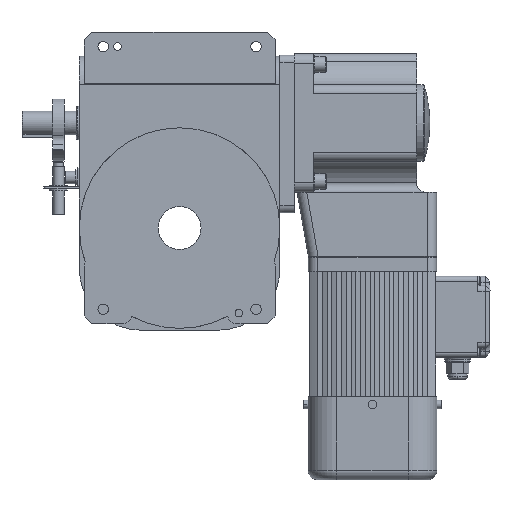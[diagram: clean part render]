
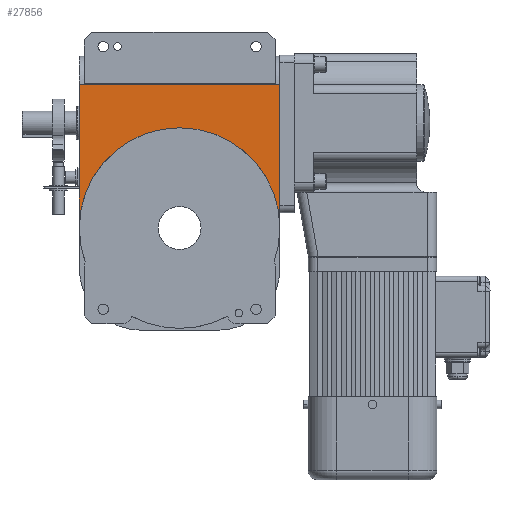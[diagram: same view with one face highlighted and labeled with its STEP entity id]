
A CAD part, front view. The second image highlights one B-rep face of the part: STEP entity #27856.
In plain terms, the highlighted planar face has unit normal (0, -1, 0).
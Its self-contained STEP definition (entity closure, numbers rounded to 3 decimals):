
#2117 = EDGE_CURVE ( 'NONE', #80468, #77589, #79823, .T. ) ;
#2771 = DIRECTION ( 'NONE',  ( 0., 0., -1. ) ) ;
#2803 = CARTESIAN_POINT ( 'NONE',  ( 105., -140., 50.989 ) ) ;
#5852 = AXIS2_PLACEMENT_3D ( 'NONE', #36999, #87175, #44219 ) ;
#7763 = CARTESIAN_POINT ( 'NONE',  ( -105., -140., 0. ) ) ;
#8112 = PLANE ( 'NONE',  #5852 ) ;
#8953 = EDGE_LOOP ( 'NONE', ( #90208, #60788, #83665, #19082, #53543, #37166, #71272, #9539 ) ) ;
#9539 = ORIENTED_EDGE ( 'NONE', *, *, #2117, .F. ) ;
#12973 = VECTOR ( 'NONE', #24154, 1000. ) ;
#12991 = CARTESIAN_POINT ( 'NONE',  ( -105., -140., 42. ) ) ;
#13873 = LINE ( 'NONE', #15810, #30749 ) ;
#15555 = VERTEX_POINT ( 'NONE', #85938 ) ;
#15810 = CARTESIAN_POINT ( 'NONE',  ( 105., -140., 110. ) ) ;
#16577 = EDGE_CURVE ( 'NONE', #72814, #22668, #53386, .T. ) ;
#17841 = CARTESIAN_POINT ( 'NONE',  ( -105., -140., 150. ) ) ;
#18651 = VERTEX_POINT ( 'NONE', #53085 ) ;
#19082 = ORIENTED_EDGE ( 'NONE', *, *, #44147, .F. ) ;
#19183 = DIRECTION ( 'NONE',  ( 0., 0., -1. ) ) ;
#19224 = EDGE_CURVE ( 'NONE', #19879, #80468, #47107, .T. ) ;
#19879 = VERTEX_POINT ( 'NONE', #69375 ) ;
#20188 = DIRECTION ( 'NONE',  ( 0., 0., -1. ) ) ;
#22668 = VERTEX_POINT ( 'NONE', #54936 ) ;
#24154 = DIRECTION ( 'NONE',  ( 0., 0., -1. ) ) ;
#27856 = ADVANCED_FACE ( 'NONE', ( #91392 ), #8112, .F. ) ;
#30592 = DIRECTION ( 'NONE',  ( 0., -1., 0. ) ) ;
#30749 = VECTOR ( 'NONE', #73238, 1000. ) ;
#31788 = LINE ( 'NONE', #12991, #50834 ) ;
#33850 = CARTESIAN_POINT ( 'NONE',  ( 0., -140., 0. ) ) ;
#36999 = CARTESIAN_POINT ( 'NONE',  ( -105., -140., 110. ) ) ;
#37166 = ORIENTED_EDGE ( 'NONE', *, *, #87811, .F. ) ;
#37857 = LINE ( 'NONE', #38501, #56940 ) ;
#38501 = CARTESIAN_POINT ( 'NONE',  ( 105., -140., 110. ) ) ;
#40077 = CARTESIAN_POINT ( 'NONE',  ( 105., -140., 17.386 ) ) ;
#40185 = AXIS2_PLACEMENT_3D ( 'NONE', #73536, #30592, #80758 ) ;
#41068 = DIRECTION ( 'NONE',  ( 0., 0., 1. ) ) ;
#44147 = EDGE_CURVE ( 'NONE', #22668, #18651, #72946, .T. ) ;
#44219 = DIRECTION ( 'NONE',  ( 0., 0., 1. ) ) ;
#44875 = VECTOR ( 'NONE', #60823, 1000. ) ;
#47107 = LINE ( 'NONE', #17841, #44875 ) ;
#47644 = CARTESIAN_POINT ( 'NONE',  ( 105., -140., 150. ) ) ;
#50834 = VECTOR ( 'NONE', #20188, 1000. ) ;
#53085 = CARTESIAN_POINT ( 'NONE',  ( 0., -140., 105. ) ) ;
#53386 = LINE ( 'NONE', #66516, #12973 ) ;
#53543 = ORIENTED_EDGE ( 'NONE', *, *, #16577, .F. ) ;
#54374 = VERTEX_POINT ( 'NONE', #7763 ) ;
#54936 = CARTESIAN_POINT ( 'NONE',  ( 105., -140., 0. ) ) ;
#56940 = VECTOR ( 'NONE', #2771, 1000. ) ;
#60718 = VECTOR ( 'NONE', #19183, 1000. ) ;
#60788 = ORIENTED_EDGE ( 'NONE', *, *, #90393, .T. ) ;
#60823 = DIRECTION ( 'NONE',  ( 1., 0., 0. ) ) ;
#62162 = CARTESIAN_POINT ( 'NONE',  ( 105., -140., 110. ) ) ;
#66516 = CARTESIAN_POINT ( 'NONE',  ( 105., -140., 110. ) ) ;
#69375 = CARTESIAN_POINT ( 'NONE',  ( -105., -140., 150. ) ) ;
#71272 = ORIENTED_EDGE ( 'NONE', *, *, #73260, .F. ) ;
#72814 = VERTEX_POINT ( 'NONE', #40077 ) ;
#72946 = CIRCLE ( 'NONE', #40185, 105. ) ;
#73238 = DIRECTION ( 'NONE',  ( 0., 0., -1. ) ) ;
#73260 = EDGE_CURVE ( 'NONE', #77589, #15555, #13873, .T. ) ;
#73536 = CARTESIAN_POINT ( 'NONE',  ( 0., -140., 0. ) ) ;
#77589 = VERTEX_POINT ( 'NONE', #2803 ) ;
#78598 = EDGE_CURVE ( 'NONE', #18651, #54374, #79911, .T. ) ;
#79823 = LINE ( 'NONE', #62162, #60718 ) ;
#79911 = CIRCLE ( 'NONE', #81432, 105. ) ;
#80468 = VERTEX_POINT ( 'NONE', #47644 ) ;
#80758 = DIRECTION ( 'NONE',  ( 0., 0., 1. ) ) ;
#81432 = AXIS2_PLACEMENT_3D ( 'NONE', #33850, #84052, #41068 ) ;
#83665 = ORIENTED_EDGE ( 'NONE', *, *, #78598, .F. ) ;
#84052 = DIRECTION ( 'NONE',  ( 0., -1., 0. ) ) ;
#85938 = CARTESIAN_POINT ( 'NONE',  ( 105., -140., 47.035 ) ) ;
#87175 = DIRECTION ( 'NONE',  ( 0., 1., 0. ) ) ;
#87811 = EDGE_CURVE ( 'NONE', #15555, #72814, #37857, .T. ) ;
#90208 = ORIENTED_EDGE ( 'NONE', *, *, #19224, .F. ) ;
#90393 = EDGE_CURVE ( 'NONE', #19879, #54374, #31788, .T. ) ;
#91392 = FACE_OUTER_BOUND ( 'NONE', #8953, .T. ) ;
